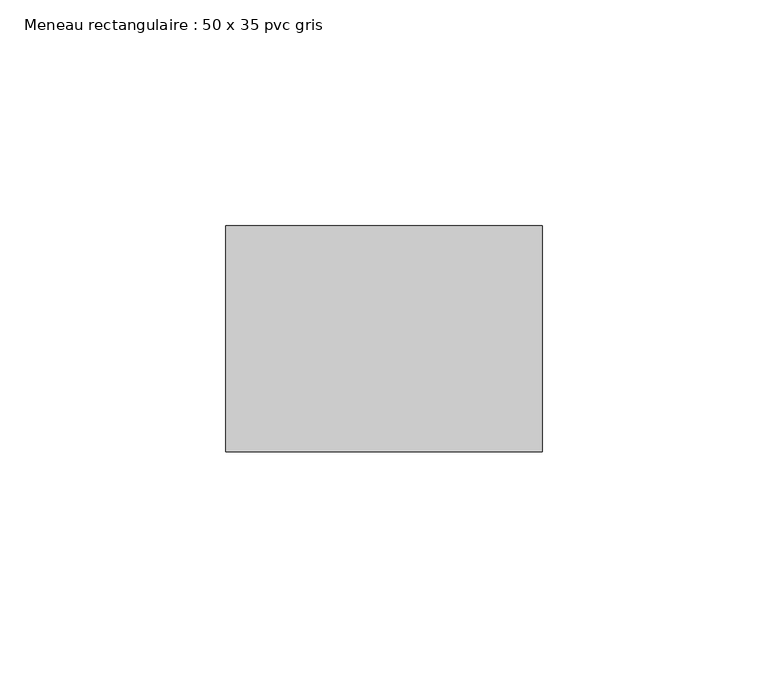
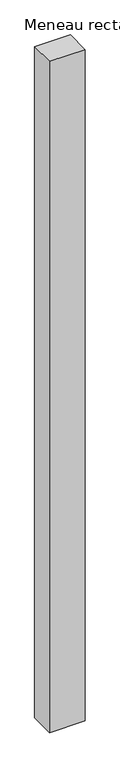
"""IFC4 building model written with IfcOpenShell, lengths in millimetres: member geometry, Meneau rectangulaire : 50 x 35 pvc gris."""

from ifc_helpers import new_model, si_unit, frame, origin, place, context, project, spatial, polyline, outline, extrude, source, transform, mapped, element, save


def meneau_rectangulaire_50_x_35_pvc_gris_b827f45a(model_context):
    return source(origin(), model_context, "Body", "SweptSolid", [
        extrude(outline(polyline([(35.0, 0.0), (35.0, -50.0), (-35.0, -50.0), (-35.0, 0.0), (35.0, 0.0)])), frame((0.0, 0.0, -1390.0), z_axis=(0.0, 0.0, 1.0), x_axis=(1.0, 0.0, 0.0)), (0.0, 0.0, 1.0), 1390.0),
    ])


if __name__ == "__main__":
    model = new_model("IFC4")
    model_context = context("Model", 3, world=origin())
    ifc_project = project(units=[si_unit("LENGTHUNIT", "METRE", prefix="MILLI")], contexts=[model_context])
    site = spatial("IfcSite", under=ifc_project)
    building = spatial("IfcBuilding", under=site)
    placement = place(None, origin())
    meneau_rectangulaire_50_x_35_pvc_gris_shape = meneau_rectangulaire_50_x_35_pvc_gris_b827f45a(model_context)
    element("IfcMember", 1, ObjectType="Meneau rectangulaire : 50 x 35 pvc gris", at=placement, inside=building, context=model_context, shape_type="MappedRepresentation", body=[
        mapped(meneau_rectangulaire_50_x_35_pvc_gris_shape, transform((0.0, 0.0, 0.0), x_axis=(1.0, 0.0, 0.0), y_axis=(0.0, 1.0, 0.0), z_axis=(0.0, 0.0, 1.0))),
    ])
    save(model, "model.ifc")
